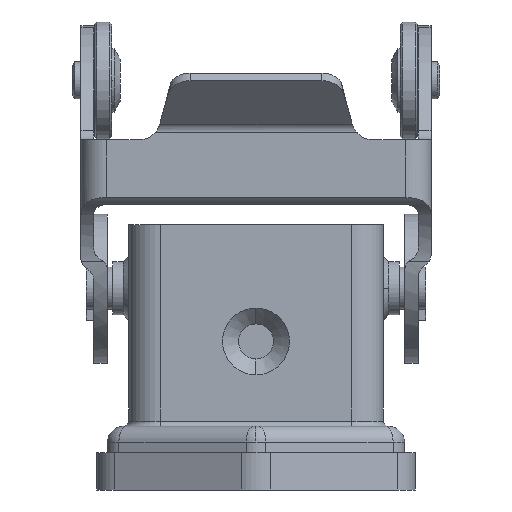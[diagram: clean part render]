
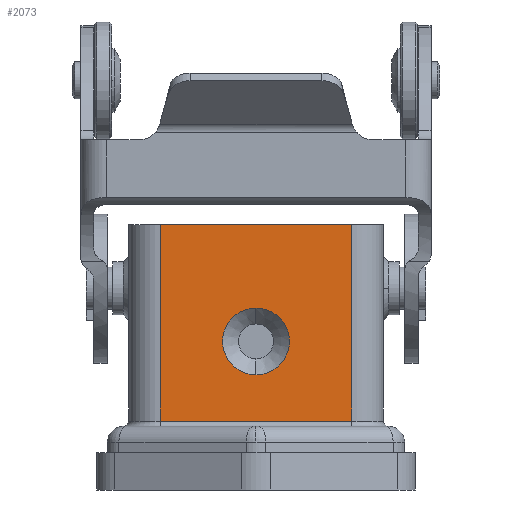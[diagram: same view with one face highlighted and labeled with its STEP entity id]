
A CAD part, left-side view. The second image highlights one B-rep face of the part: STEP entity #2073.
In plain terms, the highlighted planar face has unit normal (-1, 0, 0).
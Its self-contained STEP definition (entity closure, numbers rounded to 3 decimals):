
#1025 = FACE_BOUND ( 'NONE', #8167, .T. ) ;
#1028 = FACE_OUTER_BOUND ( 'NONE', #8473, .T. ) ;
#1451 = CIRCLE ( 'NONE', #3269, 3.15 ) ;
#1690 = VERTEX_POINT ( 'NONE', #8909 ) ;
#1691 = VERTEX_POINT ( 'NONE', #8910 ) ;
#1692 = VERTEX_POINT ( 'NONE', #8911 ) ;
#1693 = VERTEX_POINT ( 'NONE', #8912 ) ;
#1974 = VERTEX_POINT ( 'NONE', #2391 ) ;
#1975 = VERTEX_POINT ( 'NONE', #2392 ) ;
#2073 = ADVANCED_FACE ( 'NONE', ( #1025, #1028 ), #2684, .T. ) ;
#2391 = CARTESIAN_POINT ( 'NONE',  ( -12., 0., -8.15 ) ) ;
#2392 = CARTESIAN_POINT ( 'NONE',  ( -12., 0., -1.85 ) ) ;
#2683 = CARTESIAN_POINT ( 'NONE',  ( -12., -9., -17. ) ) ;
#2684 = PLANE ( 'NONE',  #7959 ) ;
#2686 = DIRECTION ( 'NONE',  ( -1., 0., 0. ) ) ;
#2687 = DIRECTION ( 'NONE',  ( 0., 0., 1. ) ) ;
#3269 = AXIS2_PLACEMENT_3D ( 'NONE', #3937, #3945, #3946 ) ;
#3937 = CARTESIAN_POINT ( 'NONE',  ( -12., 0., -5. ) ) ;
#3945 = DIRECTION ( 'NONE',  ( 1., 0., 0. ) ) ;
#3946 = DIRECTION ( 'NONE',  ( 0., 0., 1. ) ) ;
#5246 = EDGE_CURVE ( 'NONE', #1974, #1975, #1451, .T. ) ;
#5759 = CARTESIAN_POINT ( 'NONE',  ( -12., -9., -17. ) ) ;
#5762 = DIRECTION ( 'NONE',  ( 0., 0., -1. ) ) ;
#5764 = CARTESIAN_POINT ( 'NONE',  ( -12., 0., -5. ) ) ;
#5777 = DIRECTION ( 'NONE',  ( 1., 0., 0. ) ) ;
#5778 = DIRECTION ( 'NONE',  ( 0., 0., 1. ) ) ;
#5826 = CARTESIAN_POINT ( 'NONE',  ( -12., 0., 6. ) ) ;
#5834 = DIRECTION ( 'NONE',  ( 0., -1., 0. ) ) ;
#6140 = LINE ( 'NONE', #5759, #6143 ) ;
#6143 = VECTOR ( 'NONE', #5762, 1000. ) ;
#6154 = CIRCLE ( 'NONE', #6399, 3.15 ) ;
#6174 = VECTOR ( 'NONE', #5834, 1000. ) ;
#6177 = LINE ( 'NONE', #5826, #6174 ) ;
#6303 = LINE ( 'NONE', #6685, #6304 ) ;
#6304 = VECTOR ( 'NONE', #6686, 1000. ) ;
#6308 = LINE ( 'NONE', #6713, #6312 ) ;
#6312 = VECTOR ( 'NONE', #6714, 1000. ) ;
#6399 = AXIS2_PLACEMENT_3D ( 'NONE', #5764, #5777, #5778 ) ;
#6685 = CARTESIAN_POINT ( 'NONE',  ( -12., -9., -12.5 ) ) ;
#6686 = DIRECTION ( 'NONE',  ( 0., -1., 0. ) ) ;
#6713 = CARTESIAN_POINT ( 'NONE',  ( -12., 9., -17. ) ) ;
#6714 = DIRECTION ( 'NONE',  ( 0., 0., -1. ) ) ;
#7959 = AXIS2_PLACEMENT_3D ( 'NONE', #2683, #2686, #2687 ) ;
#8060 = ORIENTED_EDGE ( 'NONE', *, *, #8605, .F. ) ;
#8068 = ORIENTED_EDGE ( 'NONE', *, *, #8809, .T. ) ;
#8072 = ORIENTED_EDGE ( 'NONE', *, *, #8832, .T. ) ;
#8074 = ORIENTED_EDGE ( 'NONE', *, *, #8649, .F. ) ;
#8076 = ORIENTED_EDGE ( 'NONE', *, *, #5246, .T. ) ;
#8083 = ORIENTED_EDGE ( 'NONE', *, *, #8617, .T. ) ;
#8167 = EDGE_LOOP ( 'NONE', ( #8083, #8076 ) ) ;
#8473 = EDGE_LOOP ( 'NONE', ( #8074, #8072, #8068, #8060 ) ) ;
#8605 = EDGE_CURVE ( 'NONE', #1692, #1693, #6140, .T. ) ;
#8617 = EDGE_CURVE ( 'NONE', #1975, #1974, #6154, .T. ) ;
#8649 = EDGE_CURVE ( 'NONE', #1690, #1692, #6177, .T. ) ;
#8809 = EDGE_CURVE ( 'NONE', #1691, #1693, #6303, .T. ) ;
#8832 = EDGE_CURVE ( 'NONE', #1690, #1691, #6308, .T. ) ;
#8909 = CARTESIAN_POINT ( 'NONE',  ( -12., 9., 6. ) ) ;
#8910 = CARTESIAN_POINT ( 'NONE',  ( -12., 9., -12.5 ) ) ;
#8911 = CARTESIAN_POINT ( 'NONE',  ( -12., -9., 6. ) ) ;
#8912 = CARTESIAN_POINT ( 'NONE',  ( -12., -9., -12.5 ) ) ;
